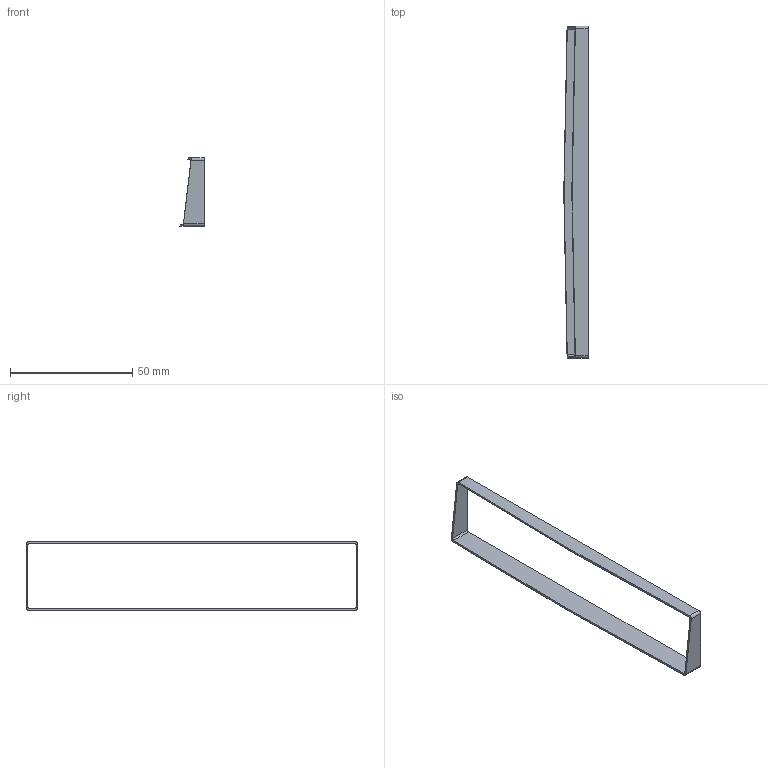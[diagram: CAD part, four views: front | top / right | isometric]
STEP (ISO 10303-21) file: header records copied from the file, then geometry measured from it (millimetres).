
FILE_DESCRIPTION(('Open CASCADE Model'),'2;1');
FILE_NAME('Open CASCADE Shape Model','2026-10-28T00:38:06',('Author'),( 'Open CASCADE'),'Open CASCADE STEP processor 7.8','Open CASCADE 7.8' ,'Unknown');
FILE_SCHEMA(('AUTOMOTIVE_DESIGN { 1 0 10303 214 1 1 1 1 }'));
Length unit declared in the file: millimetre
Products named in the file (1): Open CASCADE STEP translator 7.8 16
Bounding box: 10 x 135.7 x 28 mm (x, y, z)
Volume: 1749.2 mm3; surface area: 5443.3 mm2
Topology: 1 solids, 1 shells, 18 faces, 50 edges, 34 vertices
Faces by surface type: plane 9, cylinder 8, bspline 1
Entity records: 4484 total; most frequent: CARTESIAN_POINT 3586, DIRECTION 125, ORIENTED_EDGE 100, PCURVE 100, DEFINITIONAL_REPRESENTATION 100, B_SPLINE_CURVE_WITH_KNOTS 69, LINE 65, VECTOR 65
